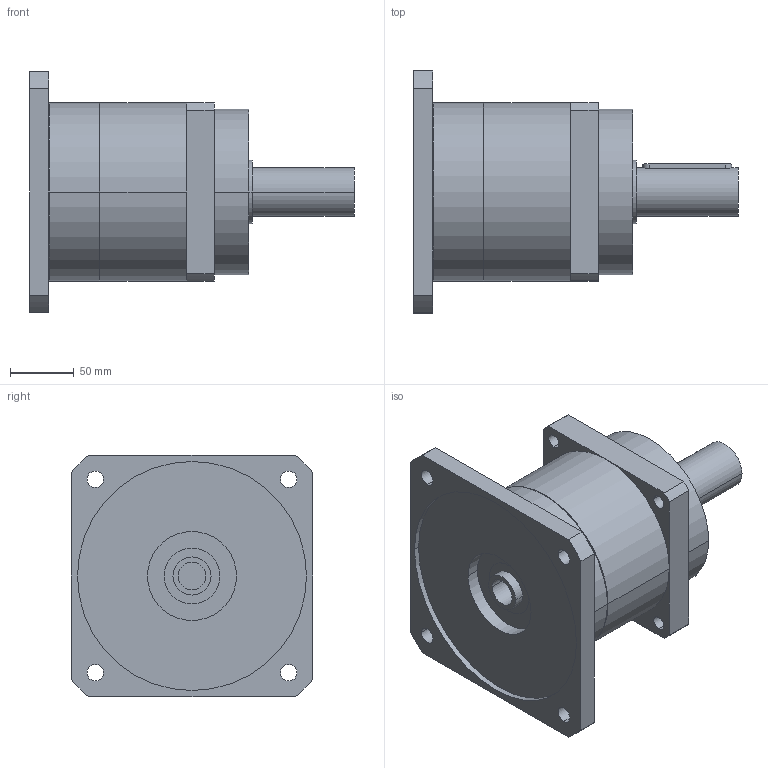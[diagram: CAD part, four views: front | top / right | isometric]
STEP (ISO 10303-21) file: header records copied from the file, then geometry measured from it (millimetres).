
FILE_DESCRIPTION(('CoCreate Modeling STEP Export'),'2;1');
FILE_NAME('GPR150_ig-3-4-5-7_38_B5_22_P06.stp','2014-08-26T15:29:14',(''),(''),'CoCreate Modeling STEP processor for AP214 (Solid Model)','CoCreate Modeling 16.00C 25-Feb-2009 (C) Parametric Technology GmbH','');
FILE_SCHEMA(('AUTOMOTIVE_DESIGN { 1 0 10303 214 1 1 1 1 }'));
Length unit declared in the file: millimetre
Products named in the file (2): GPR150_ig-3-4-5-7_38_B5_22_P06
Assembly tree (1 placements, depth 2):
  GPR150_ig-3-4-5-7_38_B5_22_P06
    GPR150_ig-3-4-5-7_38_B5_22_P06
Bounding box: 255 x 190 x 190 mm (x, y, z)
Volume: 2897998.6 mm3; surface area: 185579.3 mm2
Topology: 1 solids, 1 shells, 81 faces, 218 edges, 148 vertices
Faces by surface type: cylinder 48, plane 27, cone 6
Entity records: 2315 total; most frequent: ORIENTED_EDGE 432, CARTESIAN_POINT 429, DIRECTION 330, EDGE_CURVE 216, VERTEX_POINT 148, AXIS2_PLACEMENT_3D 121, EDGE_LOOP 108, VECTOR 88
